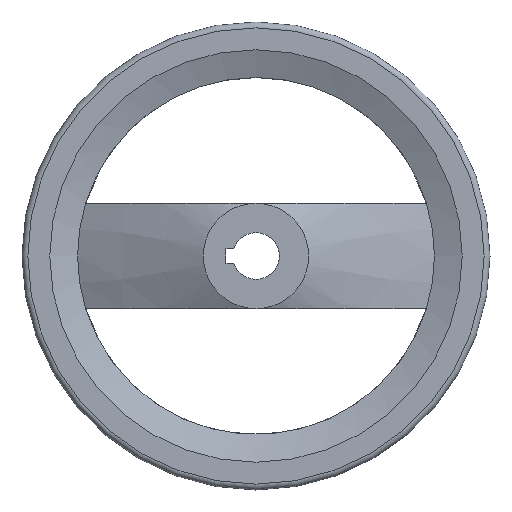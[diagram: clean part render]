
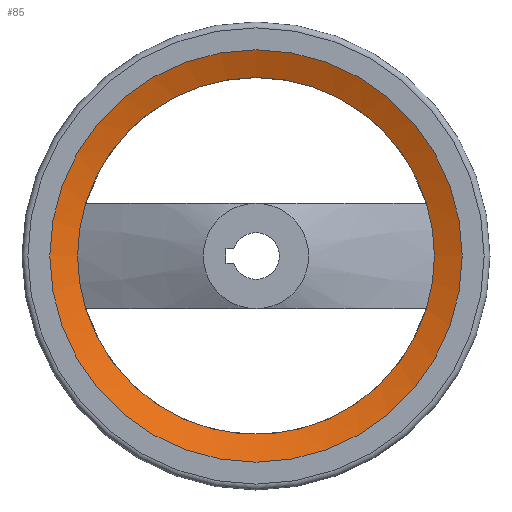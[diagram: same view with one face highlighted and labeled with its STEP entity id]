
A CAD part, left-side view. The second image highlights one B-rep face of the part: STEP entity #85.
In plain terms, the highlighted conical face has half-angle 68.547 degrees and reference radius 61 mm.
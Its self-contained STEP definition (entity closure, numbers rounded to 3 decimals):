
#85 = ADVANCED_FACE( '', ( #122, #123 ), #124, .F. );
#122 = FACE_OUTER_BOUND( '', #178, .T. );
#123 = FACE_BOUND( '', #179, .T. );
#124 = CONICAL_SURFACE( '', #180, 61., 1.196 );
#178 = EDGE_LOOP( '', ( #282 ) );
#179 = EDGE_LOOP( '', ( #283, #284, #285, #286 ) );
#180 = AXIS2_PLACEMENT_3D( '', #287, #288, #289 );
#282 = ORIENTED_EDGE( '', *, *, #388, .T. );
#283 = ORIENTED_EDGE( '', *, *, #389, .F. );
#284 = ORIENTED_EDGE( '', *, *, #390, .T. );
#285 = ORIENTED_EDGE( '', *, *, #391, .F. );
#286 = ORIENTED_EDGE( '', *, *, #392, .T. );
#287 = CARTESIAN_POINT( '', ( 24.733, 0., 0. ) );
#288 = DIRECTION( '', ( -1., 0., 0. ) );
#289 = DIRECTION( '', ( 0., 0., 1. ) );
#388 = EDGE_CURVE( '', #450, #450, #451, .T. );
#389 = EDGE_CURVE( '', #452, #406, #453, .T. );
#390 = EDGE_CURVE( '', #452, #454, #455, .F. );
#391 = EDGE_CURVE( '', #412, #454, #456, .T. );
#392 = EDGE_CURVE( '', #412, #406, #457, .F. );
#406 = VERTEX_POINT( '', #478 );
#412 = VERTEX_POINT( '', #519 );
#450 = VERTEX_POINT( '', #625 );
#451 = CIRCLE( '', #626, 70.5 );
#452 = VERTEX_POINT( '', #627 );
#453 = CIRCLE( '', #628, 61. );
#454 = VERTEX_POINT( '', #629 );
#455 = CIRCLE( '', #630, 61. );
#456 = CIRCLE( '', #631, 61. );
#457 = CIRCLE( '', #632, 61. );
#478 = CARTESIAN_POINT( '', ( 24.733, -58.284, 18. ) );
#519 = CARTESIAN_POINT( '', ( 24.733, 58.284, 18. ) );
#625 = CARTESIAN_POINT( '', ( 21., 0., 70.5 ) );
#626 = AXIS2_PLACEMENT_3D( '', #746, #747, #748 );
#627 = CARTESIAN_POINT( '', ( 24.733, -58.284, -18. ) );
#628 = AXIS2_PLACEMENT_3D( '', #749, #750, #751 );
#629 = CARTESIAN_POINT( '', ( 24.733, 58.284, -18. ) );
#630 = AXIS2_PLACEMENT_3D( '', #752, #753, #754 );
#631 = AXIS2_PLACEMENT_3D( '', #755, #756, #757 );
#632 = AXIS2_PLACEMENT_3D( '', #758, #759, #760 );
#746 = CARTESIAN_POINT( '', ( 21., 0., 0. ) );
#747 = DIRECTION( '', ( -1., 0., 0. ) );
#748 = DIRECTION( '', ( 0., 0., 1. ) );
#749 = CARTESIAN_POINT( '', ( 24.733, 0., 0. ) );
#750 = DIRECTION( '', ( -1., 0., 0. ) );
#751 = DIRECTION( '', ( 0., 0., 1. ) );
#752 = CARTESIAN_POINT( '', ( 24.733, 0., 0. ) );
#753 = DIRECTION( '', ( -1., 0., 0. ) );
#754 = DIRECTION( '', ( 0., 0., 1. ) );
#755 = CARTESIAN_POINT( '', ( 24.733, 0., 0. ) );
#756 = DIRECTION( '', ( -1., 0., 0. ) );
#757 = DIRECTION( '', ( 0., 0., 1. ) );
#758 = CARTESIAN_POINT( '', ( 24.733, 0., 0. ) );
#759 = DIRECTION( '', ( -1., 0., 0. ) );
#760 = DIRECTION( '', ( 0., 0., 1. ) );
